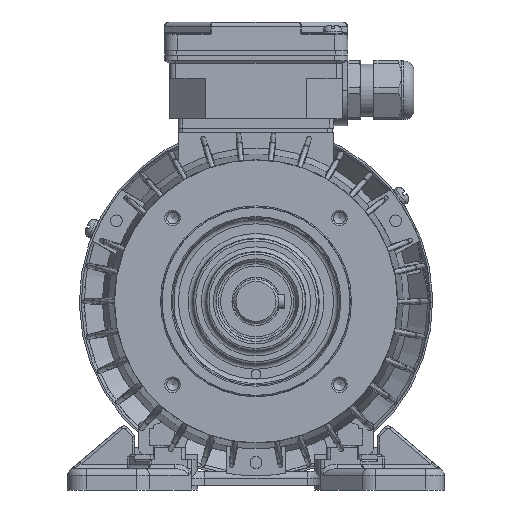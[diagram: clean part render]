
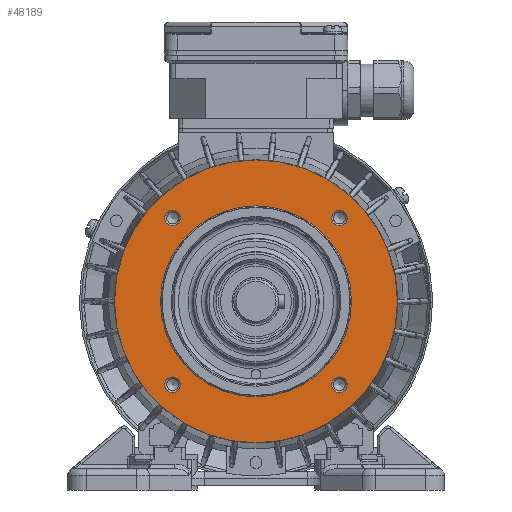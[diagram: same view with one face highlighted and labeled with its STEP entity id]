
A CAD part, left-side view. The second image highlights one B-rep face of the part: STEP entity #48189.
In plain terms, the highlighted planar face has unit normal (-1, 0, 0).
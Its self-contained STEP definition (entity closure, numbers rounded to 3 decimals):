
#9793=PLANE('',#70178);
#12826=ORIENTED_EDGE('',*,*,#27209,.T.);
#12827=ORIENTED_EDGE('',*,*,#27208,.T.);
#12828=ORIENTED_EDGE('',*,*,#27207,.T.);
#12829=ORIENTED_EDGE('',*,*,#27206,.T.);
#12830=ORIENTED_EDGE('',*,*,#27436,.T.);
#12831=ORIENTED_EDGE('',*,*,#27363,.T.);
#27206=EDGE_CURVE('',#34571,#34571,#39374,.F.);
#27207=EDGE_CURVE('',#34572,#34572,#39375,.F.);
#27208=EDGE_CURVE('',#34573,#34573,#39376,.F.);
#27209=EDGE_CURVE('',#34574,#34574,#39377,.F.);
#27363=EDGE_CURVE('',#34720,#34720,#39407,.T.);
#27436=EDGE_CURVE('',#34759,#34759,#39452,.F.);
#34571=VERTEX_POINT('',#89309);
#34572=VERTEX_POINT('',#89312);
#34573=VERTEX_POINT('',#89315);
#34574=VERTEX_POINT('',#89318);
#34720=VERTEX_POINT('',#91637);
#34759=VERTEX_POINT('',#92132);
#39374=CIRCLE('',#70088,3.3);
#39375=CIRCLE('',#70090,3.3);
#39376=CIRCLE('',#70092,3.3);
#39377=CIRCLE('',#70094,3.3);
#39407=CIRCLE('',#70127,60.);
#39452=CIRCLE('',#70179,40.5);
#41647=EDGE_LOOP('',(#12826));
#41648=EDGE_LOOP('',(#12827));
#41649=EDGE_LOOP('',(#12828));
#41650=EDGE_LOOP('',(#12829));
#41651=EDGE_LOOP('',(#12830));
#41652=EDGE_LOOP('',(#12831));
#44923=FACE_BOUND('',#41647,.T.);
#44924=FACE_BOUND('',#41648,.T.);
#44925=FACE_BOUND('',#41649,.T.);
#44926=FACE_BOUND('',#41650,.T.);
#44927=FACE_BOUND('',#41651,.T.);
#44928=FACE_BOUND('',#41652,.T.);
#48189=ADVANCED_FACE('',(#44923,#44924,#44925,#44926,#44927,#44928),#9793,
 .T.);
#70088=AXIS2_PLACEMENT_3D('',#89308,#75397,#75398);
#70090=AXIS2_PLACEMENT_3D('',#89311,#75401,#75402);
#70092=AXIS2_PLACEMENT_3D('',#89314,#75405,#75406);
#70094=AXIS2_PLACEMENT_3D('',#89317,#75409,#75410);
#70127=AXIS2_PLACEMENT_3D('',#91636,#75483,#75484);
#70178=AXIS2_PLACEMENT_3D('',#92130,#75593,#75594);
#70179=AXIS2_PLACEMENT_3D('',#92131,#75595,#75596);
#75397=DIRECTION('',(-1.,0.,0.));
#75398=DIRECTION('',(0.,0.,-1.));
#75401=DIRECTION('',(-1.,0.,0.));
#75402=DIRECTION('',(0.,0.,-1.));
#75405=DIRECTION('',(-1.,0.,0.));
#75406=DIRECTION('',(0.,0.,-1.));
#75409=DIRECTION('',(-1.,0.,0.));
#75410=DIRECTION('',(0.,0.,-1.));
#75483=DIRECTION('',(-1.,0.,0.));
#75484=DIRECTION('',(0.,0.,-1.));
#75593=DIRECTION('',(-1.,0.,0.));
#75594=DIRECTION('',(0.,0.,-1.));
#75595=DIRECTION('',(-1.,0.,0.));
#75596=DIRECTION('',(0.,0.,-1.));
#89308=CARTESIAN_POINT('',(-44.8,35.355,35.355));
#89309=CARTESIAN_POINT('',(-44.8,35.355,32.055));
#89311=CARTESIAN_POINT('',(-44.8,-35.355,35.355));
#89312=CARTESIAN_POINT('',(-44.8,-35.355,32.055));
#89314=CARTESIAN_POINT('',(-44.8,-35.355,-35.355));
#89315=CARTESIAN_POINT('',(-44.8,-35.355,-38.655));
#89317=CARTESIAN_POINT('',(-44.8,35.355,-35.355));
#89318=CARTESIAN_POINT('',(-44.8,35.355,-38.655));
#91636=CARTESIAN_POINT('',(-44.8,0.,0.));
#91637=CARTESIAN_POINT('',(-44.8,0.,-60.));
#92130=CARTESIAN_POINT('',(-44.8,0.,40.));
#92131=CARTESIAN_POINT('',(-44.8,0.,0.));
#92132=CARTESIAN_POINT('',(-44.8,0.,-40.5));
